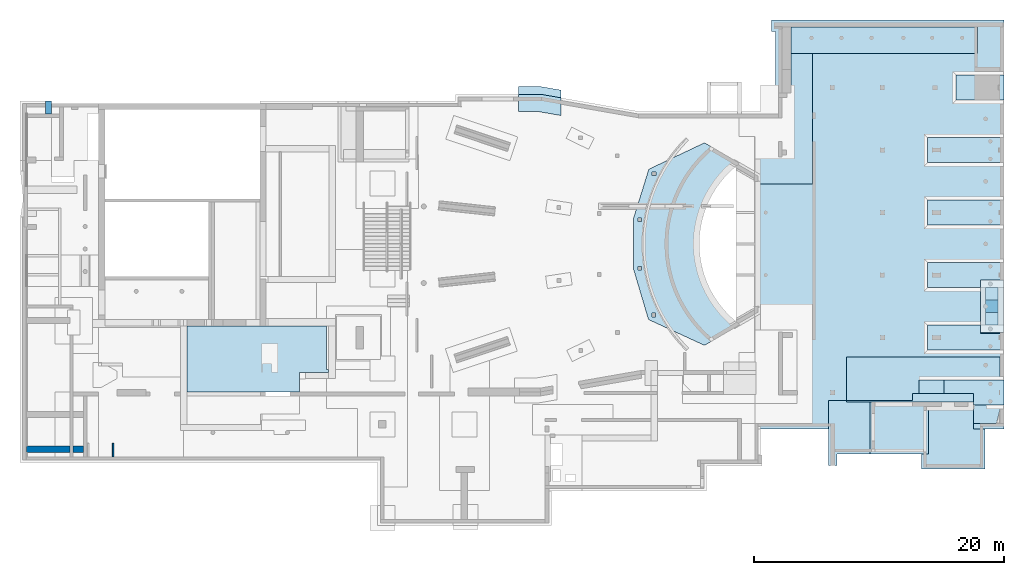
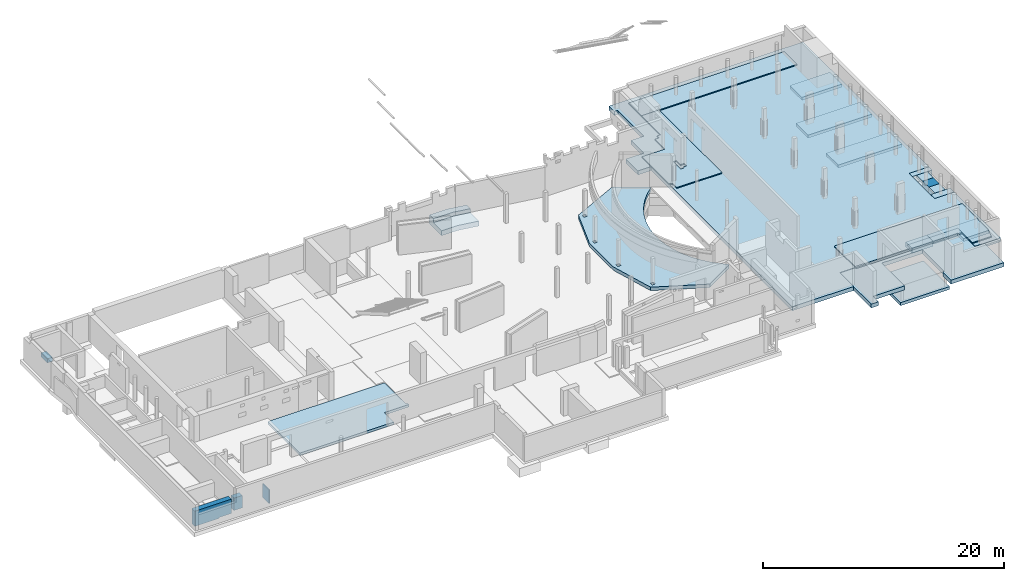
# One storey, part 30 of 42: 21 slabs, 2 walls, 6 openings.
"""IFC2X3 building model written with IfcOpenShell, lengths in millimetres."""

from ifc_helpers import new_model, entity, si_unit, converted_unit, derived_unit, direction, frame, frame_2d, origin, origin_2d_with_axis, place, context, subcontext, project, spatial, polyline, circle_curve, parameter, trimmed, segment, composite_curve, rectangle, outline, extrude, clip, bounded_halfspace, faceted_brep, material, layer, layer_set, layer_usage, type_object, element, save


model = new_model("IFC2X3")

# Units and contexts
model_context = context("Model", 3, precision=0.01, world=origin(), true_north=direction((6.12303176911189e-17, 1.0)))
body_context = subcontext(model_context, "Body", "Model", "MODEL_VIEW")
ifc_project = project(units=[si_unit("LENGTHUNIT", "METRE", prefix="MILLI"), si_unit("AREAUNIT", "SQUARE_METRE", prefix="MILLI"), si_unit("VOLUMEUNIT", "CUBIC_METRE"), converted_unit("PLANEANGLEUNIT", "DEGREE", entity("IfcRatioMeasure", 0.0174532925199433), si_unit("PLANEANGLEUNIT", "RADIAN"), dimensions=[0, 0, 0, 0, 0, 0, 0]), si_unit("MASSUNIT", "GRAM", prefix="KILO"), derived_unit("MASSDENSITYUNIT", [(si_unit("MASSUNIT", "GRAM", prefix="KILO"), 1), (si_unit("LENGTHUNIT", "METRE"), -3)]), derived_unit("MOMENTOFINERTIAUNIT", [(si_unit("LENGTHUNIT", "METRE"), 4)]), si_unit("TIMEUNIT", "SECOND"), si_unit("FREQUENCYUNIT", "HERTZ"), si_unit("THERMODYNAMICTEMPERATUREUNIT", "DEGREE_CELSIUS"), derived_unit("THERMALTRANSMITTANCEUNIT", [(si_unit("MASSUNIT", "GRAM", prefix="KILO"), 1), (si_unit("THERMODYNAMICTEMPERATUREUNIT", "KELVIN"), -1), (si_unit("TIMEUNIT", "SECOND"), -3)]), derived_unit("VOLUMETRICFLOWRATEUNIT", [(si_unit("LENGTHUNIT", "METRE"), 3), (si_unit("TIMEUNIT", "SECOND"), -1)]), si_unit("ELECTRICCURRENTUNIT", "AMPERE"), si_unit("ELECTRICVOLTAGEUNIT", "VOLT"), si_unit("POWERUNIT", "WATT"), si_unit("FORCEUNIT", "NEWTON", prefix="KILO"), si_unit("ILLUMINANCEUNIT", "LUX"), si_unit("LUMINOUSFLUXUNIT", "LUMEN"), si_unit("LUMINOUSINTENSITYUNIT", "CANDELA"), derived_unit("USERDEFINED", [(si_unit("MASSUNIT", "GRAM", prefix="KILO"), -1), (si_unit("LENGTHUNIT", "METRE"), -2), (si_unit("TIMEUNIT", "SECOND"), 3), (si_unit("LUMINOUSFLUXUNIT", "LUMEN"), 1)]), derived_unit("LINEARVELOCITYUNIT", [(si_unit("LENGTHUNIT", "METRE"), 1), (si_unit("TIMEUNIT", "SECOND"), -1)]), si_unit("PRESSUREUNIT", "PASCAL"), derived_unit("USERDEFINED", [(si_unit("LENGTHUNIT", "METRE"), -2), (si_unit("MASSUNIT", "GRAM", prefix="KILO"), 1), (si_unit("TIMEUNIT", "SECOND"), -2)]), derived_unit("LINEARFORCEUNIT", [(si_unit("MASSUNIT", "GRAM", prefix="KILO"), 1), (si_unit("LENGTHUNIT", "METRE"), 1), (si_unit("TIMEUNIT", "SECOND"), -2), (si_unit("LENGTHUNIT", "METRE"), -1)]), derived_unit("PLANARFORCEUNIT", [(si_unit("MASSUNIT", "GRAM", prefix="KILO"), 1), (si_unit("LENGTHUNIT", "METRE"), 1), (si_unit("TIMEUNIT", "SECOND"), -2), (si_unit("LENGTHUNIT", "METRE"), -2)])], contexts=[model_context])

# Site, building, storey
site_placement = place(None, origin())
site = spatial("IfcSite", under=ifc_project, at=site_placement, Name="Theater aan de Parade", CompositionType="ELEMENT")
building_placement = place(site_placement, origin())
building = spatial("IfcBuilding", under=site, at=building_placement, Name="Theater aan de Parade", CompositionType="ELEMENT")
storey_placement = place(building_placement, frame((0.0, 0.0, -3300.0)))
storey = spatial("IfcBuildingStorey", under=building, at=storey_placement, Name="-1 kelder", CompositionType="ELEMENT", Elevation=-3300.0)

# Slabs
ifc_material_1 = material(Name="00_PBT_MAT_beton t.p.g.")
ifc_layer_1 = layer(ifc_material_1, 400.0)
ifc_layer_set_1 = layer_set([ifc_layer_1], Name="Foundation Slab:13_PBT_FS_beton t.p.g._d=400_bestaand")
ifc_layer_usage_1 = layer_usage(ifc_layer_set_1, "AXIS3", "POSITIVE", 0.0)
slab_type_1 = type_object("IfcSlabType", Name="Foundation Slab:13_PBT_FS_beton t.p.g._d=400_bestaand", PredefinedType="BASESLAB", material=ifc_layer_set_1)
slab_1_placement = place(storey_placement, origin())
element("IfcSlab", 1, at=slab_1_placement, inside=storey, type_object=slab_type_1, material=ifc_layer_usage_1, Name="Foundation Slab:13_PBT_FS_beton t.p.g._d=400_bestaand", ObjectType="Foundation Slab:13_PBT_FS_beton t.p.g._d=400_bestaand", PredefinedType="BASESLAB", context=body_context, shape_type="SweptSolid", body=[
    extrude(rectangle(XDim=4200.0, YDim=1870.00000000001, at=frame_2d((0.0, 8.69704308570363e-12), x_axis=(1.0, 0.0))), frame((87725.0, 27470.0, -300.0), z_axis=(0.0, 0.0, -1.0), x_axis=(0.0, 1.0, 0.0)), (0.0, 0.0, 1.0), 400.0),
])
ifc_layer_usage_2 = layer_usage(ifc_layer_set_1, "AXIS3", "POSITIVE", 0.0)
slab_type_2 = type_object("IfcSlabType", Name="Foundation Slab:13_PBT_FS_beton t.p.g._d=400_bestaand", PredefinedType="BASESLAB", material=ifc_layer_set_1)
slab_2_placement = place(storey_placement, origin())
element("IfcSlab", 2, at=slab_2_placement, inside=storey, type_object=slab_type_2, material=ifc_layer_usage_2, Name="Foundation Slab:13_PBT_FS_beton t.p.g._d=400_bestaand", ObjectType="Foundation Slab:13_PBT_FS_beton t.p.g._d=400_bestaand", PredefinedType="BASESLAB", context=body_context, shape_type="SweptSolid", body=[
    extrude(outline(polyline([(8359.0908869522, -9998.45020097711), (10349.0908869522, -9998.45020097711), (10349.0908869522, -8268.29827850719), (12459.0908869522, -8268.29827850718), (12459.0908869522, -7068.2982785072), (16769.0908869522, -7068.2982785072), (16769.0908869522, -7388.2982785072), (17669.0908869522, -7388.29827850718), (17669.0908869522, 11191.7017214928), (-3190.90911304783, 11191.7017214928), (-3190.90911304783, 9301.70172149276), (-7390.90911304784, 9301.70172149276), (-7390.90911304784, 11191.7017214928), (-15045.9091130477, 11191.7017214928), (-15045.9091130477, 8749.56069105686), (-12190.9091130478, 8749.56069105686), (-12190.9091130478, 3881.70172149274), (-12740.9088695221, 3881.70172149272), (-12740.9088695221, -2854.72426202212), (-15045.9091130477, -2854.72426202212), (-15045.9091130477, -8738.29827850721), (8359.0908869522, -8738.29827850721), (8359.0908869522, -9998.45020097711)])), frame((77488.2982785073, 32700.9091130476, 660.0), z_axis=(0.0, 0.0, -1.0), x_axis=(0.0, 1.0, 0.0)), (0.0, 0.0, 1.0), 400.0),
])
ifc_layer_usage_3 = layer_usage(ifc_layer_set_1, "AXIS3", "POSITIVE", 0.0)
slab_type_3 = type_object("IfcSlabType", Name="Foundation Slab:13_PBT_FS_beton t.p.g._d=400_bestaand", PredefinedType="BASESLAB", material=ifc_layer_set_1)
slab_3_placement = place(storey_placement, frame((9990.0, 9960.0, -440.0)))
element("IfcSlab", 3, at=slab_3_placement, inside=storey, type_object=slab_type_3, material=ifc_layer_usage_3, Name="Foundation Slab:13_PBT_FS_beton t.p.g._d=400_bestaand:2", ObjectType="Foundation Slab:13_PBT_FS_beton t.p.g._d=400_bestaand", PredefinedType="BASESLAB", context=body_context, shape_type="SweptSolid", body=[
    extrude(rectangle(XDim=1030.00000002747, YDim=500.0, at=frame_2d((27105.8243425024, 16200.0), x_axis=(0.0, 1.0))), frame((29375.8243425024, 17225.0, 400.0), z_axis=(0.0, 0.0, -1.0), x_axis=(-1.0, 0.0, 0.0)), (0.0, 0.0, 1.0), 400.0),
])
ifc_layer_2 = layer(ifc_material_1, 700.0)
ifc_layer_set_2 = layer_set([ifc_layer_2], Name="Foundation Slab:13_PBT_FS_beton t.p.g._d=700_bestaand")
ifc_layer_usage_4 = layer_usage(ifc_layer_set_2, "AXIS3", "POSITIVE", 0.0)
slab_type_4 = type_object("IfcSlabType", Name="Foundation Slab:13_PBT_FS_beton t.p.g._d=700_bestaand", PredefinedType="BASESLAB", material=ifc_layer_set_2)
slab_4_placement = place(storey_placement, origin())
element("IfcSlab", 4, at=slab_4_placement, inside=storey, type_object=slab_type_4, material=ifc_layer_usage_4, Name="Foundation Slab:13_PBT_FS_beton t.p.g._d=700_bestaand", ObjectType="Foundation Slab:13_PBT_FS_beton t.p.g._d=700_bestaand", PredefinedType="BASESLAB", context=body_context, shape_type="SweptSolid", body=[
    extrude(rectangle(XDim=1999.99999999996, YDim=6109.99999999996, at=frame_2d((-1.51203494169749e-11, 0.0), x_axis=(1.0, 0.0))), frame((85625.0, 34970.0, -40.0), z_axis=(0.0, 0.0, 1.0), x_axis=(0.0, -1.0, 0.0)), (0.0, 0.0, 1.0), 300.0),
])
ifc_layer_usage_5 = layer_usage(ifc_layer_set_2, "AXIS3", "POSITIVE", 0.0)
slab_type_5 = type_object("IfcSlabType", Name="Foundation Slab:13_PBT_FS_beton t.p.g._d=700_bestaand", PredefinedType="BASESLAB", material=ifc_layer_set_2)
slab_5_placement = place(storey_placement, origin())
element("IfcSlab", 5, at=slab_5_placement, inside=storey, type_object=slab_type_5, material=ifc_layer_usage_5, Name="Foundation Slab:13_PBT_FS_beton t.p.g._d=700_bestaand", ObjectType="Foundation Slab:13_PBT_FS_beton t.p.g._d=700_bestaand", PredefinedType="BASESLAB", context=body_context, shape_type="SweptSolid", body=[
    extrude(rectangle(XDim=1999.99999999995, YDim=6109.99999999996, at=frame_2d((-1.29602995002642e-11, 0.0), x_axis=(1.0, 0.0))), frame((85625.0, 39965.0, -40.0), z_axis=(0.0, 0.0, 1.0), x_axis=(0.0, -1.0, 0.0)), (0.0, 0.0, 1.0), 300.0),
])
ifc_layer_usage_6 = layer_usage(ifc_layer_set_2, "AXIS3", "POSITIVE", 0.0)
slab_type_6 = type_object("IfcSlabType", Name="Foundation Slab:13_PBT_FS_beton t.p.g._d=700_bestaand", PredefinedType="BASESLAB", material=ifc_layer_set_2)
slab_6_placement = place(storey_placement, origin())
element("IfcSlab", 6, at=slab_6_placement, inside=storey, type_object=slab_type_6, material=ifc_layer_usage_6, Name="Foundation Slab:13_PBT_FS_beton t.p.g._d=700_bestaand", ObjectType="Foundation Slab:13_PBT_FS_beton t.p.g._d=700_bestaand", PredefinedType="BASESLAB", context=body_context, shape_type="SweptSolid", body=[
    extrude(rectangle(XDim=1999.99999999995, YDim=3820.00000000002, at=frame_2d((-1.29602995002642e-11, 8.75388650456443e-12), x_axis=(1.0, 0.0))), frame((86770.0, 44960.0, -40.0), z_axis=(0.0, 0.0, 1.0), x_axis=(0.0, -1.0, 0.0)), (0.0, 0.0, 1.0), 300.0),
])
slab_type_7 = type_object("IfcSlabType", Name="Foundation Slab:13_PBT_FS_beton t.p.g._d=700_bestaand", PredefinedType="BASESLAB")
slab_7_placement = place(storey_placement, origin())
element("IfcSlab", 7, at=slab_7_placement, inside=storey, type_object=slab_type_7, material=ifc_material_1, Name="Foundation Slab:13_PBT_FS_beton t.p.g._d=700_bestaand", ObjectType="Foundation Slab:13_PBT_FS_beton t.p.g._d=700_bestaand", PredefinedType="BASESLAB", context=body_context, shape_type="Brep", body=[
    faceted_brep([(82570.0, 30970.0, -40.0), (88680.0, 30970.0, -40.0), (88680.0, 29570.0, -40.0), (88680.0, 28970.0, -40.0), (86790.0, 28970.0, -40.0), (82570.0, 28970.0, -40.0), (86790.0, 28970.0, 660.0), (87040.0, 28970.0, 660.0), (87190.0, 28970.0, 660.0), (88190.0, 28970.0, 660.0), (88210.0, 28970.0, 660.0), (88680.0, 28970.0, 660.0), (88680.0, 29510.0, 660.0), (86790.0, 29510.0, 660.0), (82570.0, 30970.0, 260.0), (88660.0, 30970.0, 260.0), (88680.0, 30970.0, 260.0), (82570.0, 28970.0, 260.0), (86790.0, 28970.0, 260.0), (88680.0, 29510.0, 260.0), (86790.0, 29510.0, 260.0)], [[[0, 1, 2, 3, 4, 5]], [[6, 7, 8, 9, 10, 11, 12, 13]], [[1, 0, 14, 15, 16]], [[0, 5, 17, 14]], [[5, 4, 3, 11, 10, 9, 8, 7, 6, 18, 17]], [[3, 2, 1, 16, 19, 12, 11]], [[20, 19, 16, 15, 14, 17, 18]], [[13, 20, 18, 6]], [[19, 20, 13, 12]]]),
])
slab_type_8 = type_object("IfcSlabType", Name="Foundation Slab:13_PBT_FS_beton t.p.g._d=700_bestaand", PredefinedType="BASESLAB")
slab_8_placement = place(storey_placement, origin())
element("IfcSlab", 8, at=slab_8_placement, inside=storey, type_object=slab_type_8, material=ifc_material_1, Name="Foundation Slab:13_PBT_FS_beton t.p.g._d=700_bestaand", ObjectType="Foundation Slab:13_PBT_FS_beton t.p.g._d=700_bestaand", PredefinedType="BASESLAB", context=body_context, shape_type="Brep", body=[
    faceted_brep([(82570.0, 25970.0, -40.0), (86790.0, 25970.0, -40.0), (88680.0, 25970.0, -40.0), (88680.0, 25370.0, -40.0), (88680.0, 23970.0, -40.0), (82570.0, 23970.0, -40.0), (88680.0, 25970.0, 660.0), (88210.0, 25970.0, 660.0), (88190.0, 25970.0, 660.0), (87190.0, 25970.0, 660.0), (87040.0, 25970.0, 660.0), (86790.0, 25970.0, 660.0), (86790.0, 25310.0, 660.0), (88680.0, 25310.0, 660.0), (82570.0, 25970.0, 260.0), (86790.0, 25970.0, 260.0), (82570.0, 23970.0, 260.0), (88680.0, 23970.0, 260.0), (88660.0, 23970.0, 260.0), (88680.0, 25310.0, 260.0), (86790.0, 25310.0, 260.0)], [[[0, 1, 2, 3, 4, 5]], [[6, 7, 8, 9, 10, 11, 12, 13]], [[2, 1, 0, 14, 15, 11, 10, 9, 8, 7, 6]], [[0, 5, 16, 14]], [[5, 4, 17, 18, 16]], [[4, 3, 2, 6, 13, 19, 17]], [[19, 20, 15, 14, 16, 18, 17]], [[20, 12, 11, 15]], [[20, 19, 13, 12]]]),
])
ifc_layer_usage_7 = layer_usage(ifc_layer_set_2, "AXIS3", "POSITIVE", 0.0)
slab_type_9 = type_object("IfcSlabType", Name="Foundation Slab:13_PBT_FS_beton t.p.g._d=700_bestaand", PredefinedType="BASESLAB", material=ifc_layer_set_2)
slab_9_placement = place(storey_placement, origin())
element("IfcSlab", 9, at=slab_9_placement, inside=storey, type_object=slab_type_9, material=ifc_layer_usage_7, Name="Foundation Slab:13_PBT_FS_beton t.p.g._d=700_bestaand", ObjectType="Foundation Slab:13_PBT_FS_beton t.p.g._d=700_bestaand", PredefinedType="BASESLAB", context=body_context, shape_type="SweptSolid", body=[
    extrude(outline(polyline([(-1160.00476022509, -2078.49680157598), (-618.94231554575, -2078.49680157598), (-100.004760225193, -2078.49680157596), (-100.004760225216, -1237.65702030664), (-100.004760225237, -587.657020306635), (-100.004760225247, -135.637832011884), (-100.004760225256, 162.342979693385), (-100.004760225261, 289.362167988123), (178.99943824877, 289.362167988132), (839.995239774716, 289.362167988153), (839.995239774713, 400.577883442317), (839.995239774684, 1302.42851340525), (839.995239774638, 2731.50319842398), (-1160.00476022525, 2731.50319842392), (-1160.00476022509, -2078.49680157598)])), frame((85948.4968015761, 20409.9952397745, -40.0), z_axis=(0.0, 0.0, 1.0), x_axis=(0.0, -1.0, 0.0)), (0.0, 0.0, 1.0), 300.0),
])
ifc_layer_3 = layer(ifc_material_1, 900.0)
ifc_layer_set_3 = layer_set([ifc_layer_3], Name="Foundation Slab:13_PBT_FS_beton t.p.g._d=900 poer_bestaand")
ifc_layer_usage_8 = layer_usage(ifc_layer_set_3, "AXIS3", "POSITIVE", 0.0)
slab_type_10 = type_object("IfcSlabType", Name="Foundation Slab:13_PBT_FS_beton t.p.g._d=900 poer_bestaand", PredefinedType="BASESLAB", material=ifc_layer_set_3)
slab_10_placement = place(storey_placement, origin())
element("IfcSlab", 10, at=slab_10_placement, inside=storey, type_object=slab_type_10, material=ifc_layer_usage_8, Name="Foundation Slab:13_PBT_FS_beton t.p.g._d=900 poer_bestaand", ObjectType="Foundation Slab:13_PBT_FS_beton t.p.g._d=900 poer_bestaand", PredefinedType="BASESLAB", context=body_context, shape_type="SweptSolid", body=[
    extrude(rectangle(XDim=1059.99999999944, YDim=2000.00000000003, at=frame_2d((-115.535264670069, 8.54005468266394), x_axis=(1.0, 0.0))), frame((82861.4599453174, 20924.4647353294, -240.0), z_axis=(0.0, 0.0, 1.0), x_axis=(0.0, -1.0, 0.0)), (0.0, 0.0, 1.0), 500.0),
])
slab_type_11 = type_object("IfcSlabType", Name="Foundation Slab:13_PBT_FS_beton t.p.g._d=900 poer_bestaand", PredefinedType="BASESLAB")
slab_11_placement = place(storey_placement, origin())
element("IfcSlab", 11, at=slab_11_placement, inside=storey, type_object=slab_type_11, material=ifc_material_1, Name="Foundation Slab:13_PBT_FS_beton t.p.g._d=900 poer_bestaand", ObjectType="Foundation Slab:13_PBT_FS_beton t.p.g._d=900 poer_bestaand", PredefinedType="BASESLAB", context=body_context, shape_type="Brep", body=[
    faceted_brep([(51543.8141224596, 45060.0, -940.0), (53250.0, 44761.4174714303, -940.0), (53250.0, 42731.0234210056, -940.0), (51370.1338343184, 43060.0, -940.0), (49850.0, 43060.0, -940.0), (49850.0, 45060.0, -940.0), (53250.0, 44761.4174714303, -40.0), (51543.8141224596, 45060.0, -40.0), (49850.0, 45060.0, -40.0), (49850.0, 44410.0, -40.0), (51741.9915006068, 44410.0, -40.0), (53250.0, 44146.098512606, -40.0), (51741.9915006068, 44410.0, -440.0), (49850.0, 44410.0, -440.0), (53250.0, 44146.098512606, -440.0), (49850.0, 43060.0, -440.0), (51370.1338343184, 43060.0, -440.0), (53250.0, 42731.0234210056, -440.0)], [[[0, 1, 2, 3, 4, 5]], [[6, 7, 8, 9, 10, 11]], [[12, 10, 9, 13]], [[14, 12, 13, 15, 16, 17]], [[1, 0, 7, 6]], [[2, 1, 6, 11, 14, 17]], [[3, 2, 17, 16]], [[4, 3, 16, 15]], [[5, 4, 15, 13, 9, 8]], [[0, 5, 8, 7]], [[10, 12, 14, 11]]]),
])
ifc_material_2 = material(Name="00_PBT_MAT_beton t.p.g._C30/37")
slab_type_12 = type_object("IfcSlabType", Name="Floor:28_PBT_FL_beton t.p.g._d=250_C30/37_uitvulling n.t.b.", PredefinedType="FLOOR")
slab_12_placement = place(storey_placement, origin())
element("IfcSlab", 12, at=slab_12_placement, inside=storey, type_object=slab_type_12, material=ifc_material_2, Name="Floor:28_PBT_FL_beton t.p.g._d=250_C30/37_uitvulling n.t.b.", ObjectType="Floor:28_PBT_FL_beton t.p.g._d=250_C30/37_uitvulling n.t.b.", PredefinedType="FLOOR", context=body_context, shape_type="Brep", body=[
    faceted_brep([(32340.0, 20611.3674530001, -290.0), (23325.0, 20611.3674530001, -290.0), (23325.0, 25910.0, -290.0), (34680.0, 25910.0, -290.0), (34680.0, 22190.0, -290.0), (32340.0, 22190.0, -290.0), (23325.0, 20611.3674530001, -40.0), (29240.0, 20611.3674530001, -40.0), (32340.0, 20611.3674530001, -40.0), (32340.0, 22190.0, -40.0), (34680.0, 22190.0, -40.0), (34680.0, 22412.3674033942, -40.0), (34505.0, 22412.3674033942, -40.0), (34505.0, 25910.0, -40.0), (29175.0, 25910.0, -40.0), (28075.0, 25910.0, -40.0), (23325.0, 25910.0, -40.0), (34505.0, 25910.0, -240.0), (34680.0, 25910.0, -240.0), (34680.0, 22412.3674033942, -240.0), (34505.0, 22412.3674033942, -240.0)], [[[0, 1, 2, 3, 4, 5]], [[6, 7, 8, 9, 10, 11, 12, 13, 14, 15, 16]], [[1, 0, 8, 7, 6]], [[2, 1, 6, 16]], [[3, 2, 16, 15, 14, 13, 17, 18]], [[4, 3, 18, 19, 11, 10]], [[5, 4, 10, 9]], [[0, 5, 9, 8]], [[17, 20, 19, 18]], [[20, 17, 13, 12]], [[19, 20, 12, 11]]]),
])
ifc_layer_4 = layer(ifc_material_2, 300.0)
ifc_layer_set_4 = layer_set([ifc_layer_4], Name="Foundation Slab:13_PBT_FS_beton t.p.g._d=300_C30/37")
ifc_layer_usage_9 = layer_usage(ifc_layer_set_4, "AXIS3", "POSITIVE", 0.0)
slab_type_13 = type_object("IfcSlabType", Name="Foundation Slab:13_PBT_FS_beton t.p.g._d=300_C30/37", PredefinedType="BASESLAB", material=ifc_layer_set_4)
slab_13_placement = place(storey_placement, origin())
element("IfcSlab", 13, at=slab_13_placement, inside=storey, type_object=slab_type_13, material=ifc_layer_usage_9, Name="Foundation Slab:13_PBT_FS_beton t.p.g._d=300_C30/37", ObjectType="Foundation Slab:13_PBT_FS_beton t.p.g._d=300_C30/37", PredefinedType="BASESLAB", context=body_context, shape_type="SweptSolid", body=[
    extrude(rectangle(XDim=4300.00390453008, YDim=4699.90838921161, at=frame_2d((2.04636307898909e-12, 0.0), x_axis=(1.0, 0.0))), frame((80300.0542271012, 17809.9980477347, -940.0), z_axis=(0.0, 0.0, -1.0), x_axis=(0.0, 1.0, 0.0)), (0.0, 0.0, 1.0), 300.0),
])
ifc_layer_5 = layer(ifc_material_2, 400.0)
ifc_layer_set_5 = layer_set([ifc_layer_5], Name="Foundation Slab:13_PBT_FS_beton t.p.g._d=400_C30/37")
ifc_layer_usage_10 = layer_usage(ifc_layer_set_5, "AXIS3", "POSITIVE", 0.0)
slab_type_14 = type_object("IfcSlabType", Name="Foundation Slab:13_PBT_FS_beton t.p.g._d=400_C30/37", PredefinedType="BASESLAB", material=ifc_layer_set_5)
slab_14_placement = place(storey_placement, origin())
element("IfcSlab", 14, at=slab_14_placement, inside=storey, type_object=slab_type_14, material=ifc_layer_usage_10, Name="Foundation Slab:13_PBT_FS_beton t.p.g._d=400_C30/37", ObjectType="Foundation Slab:13_PBT_FS_beton t.p.g._d=400_C30/37", PredefinedType="BASESLAB", context=body_context, shape_type="SweptSolid", body=[
    extrude(outline(polyline([(-2523.12457281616, -6296.54883951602), (2676.87567071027, -6296.54883951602), (2676.87567071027, 439.87714399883), (3226.87542718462, 439.877143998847), (3226.87542718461, 5307.73611356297), (371.875427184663, 5307.73611356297), (371.875427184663, 6235.73611356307), (-2833.12457281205, 6235.73611356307), (-2833.12457281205, 1169.88556570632), (-1473.12457281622, 1169.88556570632), (-1473.12457281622, 1319.88556570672), (2176.87567071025, 1319.88556570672), (2176.87567071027, -2580.02282350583), (-1623.12847734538, -2580.02282350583), (-1623.12847734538, -5596.54883951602), (-2523.12457281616, -5596.54883951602), (-2523.12457281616, -6296.54883951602)])), frame((80930.1228560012, 17283.1245728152, 630.0), z_axis=(0.0, 0.0, -1.0), x_axis=(0.0, 1.0, 0.0)), (0.0, 0.0, 1.0), 400.0),
])
ifc_layer_6 = layer(ifc_material_2, 960.0)
ifc_layer_set_6 = layer_set([ifc_layer_6], Name="Foundation Slab:13_PBT_FS_beton t.p.g._d=960_C30/37")
ifc_layer_usage_11 = layer_usage(ifc_layer_set_6, "AXIS3", "POSITIVE", 0.0)
slab_type_15 = type_object("IfcSlabType", Name="Foundation Slab:13_PBT_FS_beton t.p.g._d=960_C30/37", PredefinedType="BASESLAB", material=ifc_layer_set_6)
slab_15_placement = place(storey_placement, origin())
element("IfcSlab", 15, at=slab_15_placement, inside=storey, type_object=slab_type_15, material=ifc_layer_usage_11, Name="Foundation Slab:13_PBT_FS_beton t.p.g._d=960_C30/37", ObjectType="Foundation Slab:13_PBT_FS_beton t.p.g._d=960_C30/37", PredefinedType="BASESLAB", context=body_context, shape_type="SweptSolid", body=[
    extrude(rectangle(XDim=1000.00000000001, YDim=1020.0000000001, at=frame_2d((0.0, 8.64019966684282e-12), x_axis=(1.0, 0.0))), frame((87700.0, 27470.0, 660.0), z_axis=(0.0, 0.0, -1.0), x_axis=(0.0, 1.0, 0.0)), (0.0, 0.0, 1.0), 960.0),
])
ifc_layer_7 = layer(ifc_material_2, 200.0)
ifc_layer_set_7 = layer_set([ifc_layer_7], Name="Floor:28_PBT_FL_beton t.p.g._d=200_C30/37")
ifc_layer_usage_12 = layer_usage(ifc_layer_set_7, "AXIS3", "POSITIVE", 0.0)
slab_type_16 = type_object("IfcSlabType", Name="Floor:28_PBT_FL_beton t.p.g._d=200_C30/37", PredefinedType="FLOOR", material=ifc_layer_set_7)
slab_16_placement = place(storey_placement, origin())
element("IfcSlab", 16, at=slab_16_placement, inside=storey, type_object=slab_type_16, material=ifc_layer_usage_12, Name="Floor:28_PBT_FL_beton t.p.g._d=200_C30/37", ObjectType="Floor:28_PBT_FL_beton t.p.g._d=200_C30/37", PredefinedType="FLOOR", context=body_context, shape_type="SweptSolid", body=[
    extrude(rectangle(XDim=999.999999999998, YDim=1020.0000000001, at=frame_2d((0.0, 8.64019966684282e-12), x_axis=(1.0, 0.0))), frame((87700.0, 26470.0, 460.0), z_axis=(0.0, 0.0, 1.0), x_axis=(0.0, 1.0, 0.0)), (0.0, 0.0, 1.0), 200.0),
    extrude(rectangle(XDim=999.999999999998, YDim=1020.0000000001, at=frame_2d((0.0, 8.64019966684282e-12), x_axis=(1.0, 0.0))), frame((87700.0, 28470.0, 460.0), z_axis=(0.0, 0.0, 1.0), x_axis=(0.0, -1.0, 0.0)), (0.0, 0.0, 1.0), 200.0),
])
ifc_layer_8 = layer(ifc_material_2, 100.0)
ifc_layer_set_8 = layer_set([ifc_layer_8], Name="Floor:28_PBT_FL_druklaag_d=100_C30/37")
ifc_layer_usage_13 = layer_usage(ifc_layer_set_8, "AXIS3", "POSITIVE", 0.0)
slab_type_17 = type_object("IfcSlabType", Name="Floor:28_PBT_FL_druklaag_d=100_C30/37", PredefinedType="FLOOR", material=ifc_layer_set_8)
slab_17_placement = place(storey_placement, origin())
element("IfcSlab", 17, at=slab_17_placement, inside=storey, type_object=slab_type_17, material=ifc_layer_usage_13, Name="Floor:28_PBT_FL_druklaag_d=100_C30/37", ObjectType="Floor:28_PBT_FL_druklaag_d=100_C30/37", PredefinedType="FLOOR", context=body_context, shape_type="SweptSolid", body=[
    extrude(rectangle(XDim=2123.00000000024, YDim=14898.1683175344, at=frame_2d((-4.32009983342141e-12, 8.64019966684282e-12), x_axis=(1.0, 0.0))), frame((79106.0841587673, 48758.4999999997, 760.0), z_axis=(0.0, 0.0, -1.0), x_axis=(0.0, 1.0, 0.0)), (0.0, 0.0, 1.0), 100.0),
])

# Slab, opening
ifc_layer_usage_14 = layer_usage(ifc_layer_set_8, "AXIS3", "POSITIVE", 0.0)
slab_type_18 = type_object("IfcSlabType", Name="Floor:28_PBT_FL_druklaag_d=100_C30/37", PredefinedType="FLOOR", material=ifc_layer_set_8)
slab_18_placement = place(storey_placement, frame((68720.0, 37250.0, 660.0)))
slab_18 = element("IfcSlab", 18, at=slab_18_placement, inside=storey, type_object=slab_type_18, material=ifc_layer_usage_14, Name="Floor:28_PBT_FL_druklaag_d=100_C30/37", ObjectType="Floor:28_PBT_FL_druklaag_d=100_C30/37", PredefinedType="FLOOR", context=body_context, shape_type="SweptSolid", body=[
    extrude(outline(polyline([(-2315.0, 5223.50000000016), (-2315.0, -5223.50000000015), (2015.0, -5223.50000000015), (2015.0, -4590.78056163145), (2315.0, -4417.60667669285), (2315.0, 76.5000000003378), (95.0, 76.5000000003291), (95.0, 1711.50000000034), (-302.0, 1711.50000000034), (-302.0, 2061.50180610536), (-622.0, 2061.50180610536), (-622.0, 5223.50000000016), (-2315.0, 5223.50000000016)])), frame((2315.0, 5223.50000000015, 100.0), z_axis=(0.0, 0.0, -1.0), x_axis=(-1.0, 0.0, 0.0)), (0.0, 0.0, 1.0), 100.0),
])
opening_1_placement = place(slab_18_placement, frame((2231.25021192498, 2642.71058157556, 100.0)))
element("IfcOpeningElement", 19, at=opening_1_placement, cuts=slab_18, Name="Floor:28_PBT_FL_druklaag_d=100_C30/37:2", ObjectType="Opening", context=body_context, shape_type="SweptSolid", body=[
    extrude(outline(polyline([(-311.250211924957, 748.131744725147), (-311.250211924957, -482.71058157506), (-11.2502119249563, -482.71058157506), (-11.2502119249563, -332.71058157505), (333.750635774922, -332.71058157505), (333.750635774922, 67.2894184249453), (-11.2502119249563, 67.2894184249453), (-11.2502119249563, 748.131744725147), (-311.250211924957, 748.131744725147)])), origin(), (0.0, 0.0, -1.0), 100.0),
])

# Slabs
ifc_layer_usage_15 = layer_usage(ifc_layer_set_8, "AXIS3", "POSITIVE", 0.0)
slab_type_19 = type_object("IfcSlabType", Name="Floor:28_PBT_FL_druklaag_d=100_C30/37", PredefinedType="FLOOR", material=ifc_layer_set_8)
slab_19_placement = place(storey_placement, origin())
element("IfcSlab", 20, at=slab_19_placement, inside=storey, type_object=slab_type_19, material=ifc_layer_usage_15, Name="Floor:28_PBT_FL_druklaag_d=100_C30/37", ObjectType="Floor:28_PBT_FL_druklaag_d=100_C30/37", PredefinedType="FLOOR", context=body_context, shape_type="SweptSolid", body=[
    extrude(outline(polyline([(-460.243126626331, -8939.35283722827), (2989.75662984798, -8939.35283722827), (2989.75662984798, 3320.5471302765), (324.756629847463, 3320.5471302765), (324.756629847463, 3250.5471302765), (-25.2433701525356, 3250.5471302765), (-25.2433701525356, 3320.5471302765), (-1207.08004522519, 3320.5471302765), (-2315.24337015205, 3037.51643256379), (-2315.243370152, 1198.40609984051), (89.7566298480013, 1198.40609984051), (89.7566298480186, -3669.45286972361), (-460.243126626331, -3669.45286972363), (-460.243126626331, -8939.35283722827)])), frame((85039.4528697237, 20420.2433701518, 760.0), z_axis=(0.0, 0.0, -1.0), x_axis=(0.0, 1.0, 0.0)), (0.0, 0.0, 1.0), 100.0),
])
ifc_layer_9 = layer(ifc_material_2, 130.0)
ifc_layer_set_9 = layer_set([ifc_layer_9], Name="Floor:28_PBT_FL_druklaag_d=130_C30/37")
ifc_layer_usage_16 = layer_usage(ifc_layer_set_9, "AXIS3", "POSITIVE", 0.0)
slab_type_20 = type_object("IfcSlabType", Name="Floor:28_PBT_FL_druklaag_d=130_C30/37", PredefinedType="FLOOR", material=ifc_layer_set_9)
slab_20_placement = place(storey_placement, origin())
element("IfcSlab", 21, at=slab_20_placement, inside=storey, type_object=slab_type_20, material=ifc_layer_usage_16, Name="Floor:28_PBT_FL_druklaag_d=130_C30/37", ObjectType="Floor:28_PBT_FL_druklaag_d=130_C30/37", PredefinedType="FLOOR", context=body_context, shape_type="SweptSolid", body=[
    extrude(outline(polyline([(-283.333252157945, -5135.88630152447), (-133.333252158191, -5135.88630152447), (-133.333252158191, 134.013665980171), (416.666504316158, 134.013665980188), (416.666504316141, 5001.87263554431), (-283.333252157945, 5001.87263554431), (-283.333252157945, -5135.88630152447)])), frame((81235.9863340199, 20093.3334956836, 760.0), z_axis=(0.0, 0.0, -1.0), x_axis=(0.0, 1.0, 0.0)), (0.0, 0.0, 1.0), 130.0),
])

# Slab, openings
ifc_layer_10 = layer(ifc_material_2, 350.0)
ifc_layer_set_10 = layer_set([ifc_layer_10], Name="Floor:28_PBT_FL_druklaag_d=350_C30/37")
ifc_layer_usage_17 = layer_usage(ifc_layer_set_10, "AXIS3", "POSITIVE", 0.0)
slab_type_21 = type_object("IfcSlabType", Name="Floor:28_PBT_FL_druklaag_d=350_C30/37", PredefinedType="FLOOR", material=ifc_layer_set_10)
slab_21_placement = place(storey_placement, frame((59045.0, 24351.6442996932, -40.0)))
slab_21 = element("IfcSlab", 22, at=slab_21_placement, inside=storey, type_object=slab_type_21, material=ifc_layer_usage_17, Name="Floor:28_PBT_FL_druklaag_d=350_C30/37", ObjectType="Floor:28_PBT_FL_druklaag_d=350_C30/37", PredefinedType="FLOOR", context=body_context, shape_type="SweptSolid", body=[
    extrude(outline(composite_curve([segment(trimmed(circle_curve(frame_2d((-9064.29601909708, 15.4466493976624), x_axis=(-1.0, 0.0)), 8028.67674840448), [parameter(127.569446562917)], [parameter(232.157381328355)], True, "PARAMETER"), False, "CONTINUOUS"), segment(polyline([(-4169.03049945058, -6348.20213275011), (-4237.34494488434, -6464.99924629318)]), True, "CONTINUOUS"), segment(polyline([(-4237.34494488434, -6464.99924629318), (-1444.79765851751, -8098.35570030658)]), True, "CONTINUOUS"), segment(polyline([(-1444.79765851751, -8098.35570030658), (3032.30829698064, -6034.26803755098)]), True, "CONTINUOUS"), segment(polyline([(3032.30829698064, -6034.26803755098), (4237.34494488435, -1971.88322993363)]), True, "CONTINUOUS"), segment(polyline([(4237.34494488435, -1971.88322993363), (4237.34494488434, 2029.04790326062)]), True, "CONTINUOUS"), segment(polyline([(4237.34494488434, 2029.04790326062), (3004.59189508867, 5987.85398544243)]), True, "CONTINUOUS"), segment(polyline([(3004.59189508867, 5987.85398544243), (-1444.79765851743, 8098.35570030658)]), True, "CONTINUOUS"), segment(polyline([(-1444.79765851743, 8098.35570030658), (-4211.51945212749, 6480.10453581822)]), True, "CONTINUOUS"), segment(polyline([(-4211.51945212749, 6480.10453581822), (-4138.74594877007, 6355.68377706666)]), True, "CONTINUOUS")], self_intersect=False)), frame((4237.34494488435, 8098.35570030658, 350.0), z_axis=(0.0, 0.0, -1.0), x_axis=(-1.0, 0.0, 0.0)), (0.0, 0.0, 1.0), 350.0),
])
opening_2_placement = place(slab_21_placement, frame((510.0, 6165.35570030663, 350.0)))
element("IfcOpeningElement", 23, at=opening_2_placement, cuts=slab_21, Name="Floor:28_PBT_FL_druklaag_d=350_C30/37:2", ObjectType="Opening", context=body_context, shape_type="SweptSolid", body=[
    extrude(rectangle(XDim=300.000000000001, YDim=300.000000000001, at=origin_2d_with_axis()), frame((0.0, 0.0, 0.0), z_axis=(0.0, 0.0, -1.0), x_axis=(-1.0, 0.0, 0.0)), (0.0, 0.0, 1.0), 350.0),
])
opening_3_placement = place(slab_21_placement, frame((500.0, 10051.3557003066, 350.0)))
element("IfcOpeningElement", 24, at=opening_3_placement, cuts=slab_21, Name="Floor:28_PBT_FL_druklaag_d=350_C30/37:3", ObjectType="Opening", context=body_context, shape_type="SweptSolid", body=[
    extrude(rectangle(XDim=300.000000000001, YDim=300.000000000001, at=origin_2d_with_axis()), frame((0.0, 0.0, 0.0), z_axis=(0.0, 0.0, -1.0), x_axis=(-1.0, 0.0, 0.0)), (0.0, 0.0, 1.0), 350.0),
])
opening_4_placement = place(slab_21_placement, frame((1645.0, 13728.3557003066, 350.0)))
element("IfcOpeningElement", 25, at=opening_4_placement, cuts=slab_21, Name="Floor:28_PBT_FL_druklaag_d=350_C30/37:4", ObjectType="Opening", context=body_context, shape_type="SweptSolid", body=[
    extrude(rectangle(XDim=300.000000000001, YDim=300.000000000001, at=origin_2d_with_axis()), frame((0.0, 0.0, 0.0), z_axis=(0.0, 0.0, -1.0), x_axis=(-1.0, 0.0, 0.0)), (0.0, 0.0, 1.0), 350.0),
])
opening_5_placement = place(slab_21_placement, frame((1620.0, 2423.35570030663, 350.0)))
element("IfcOpeningElement", 26, at=opening_5_placement, cuts=slab_21, Name="Floor:28_PBT_FL_druklaag_d=350_C30/37:5", ObjectType="Opening", context=body_context, shape_type="SweptSolid", body=[
    extrude(rectangle(XDim=300.000000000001, YDim=300.000000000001, at=origin_2d_with_axis()), frame((0.0, 0.0, 0.0), z_axis=(0.0, 0.0, -1.0), x_axis=(-1.0, 0.0, 0.0)), (0.0, 0.0, 1.0), 350.0),
])

# Wall, opening
ifc_layer_11 = layer(ifc_material_2, 500.0)
ifc_layer_set_11 = layer_set([ifc_layer_11], Name="Basic Wall:28_PBT_WA_beton t.p.g._d=500_C30/37")
ifc_layer_usage_18 = layer_usage(ifc_layer_set_11, "AXIS2", "NEGATIVE", 250.0)
wall_type_1 = type_object("IfcWallType", Name="Basic Wall:28_PBT_WA_beton t.p.g._d=500_C30/37", PredefinedType="STANDARD", material=ifc_layer_set_11)
wall_1_placement = place(storey_placement, frame((10490.0, 16040.0, -40.0)))
wall_1 = element("IfcWallStandardCase", 27, at=wall_1_placement, inside=storey, type_object=wall_type_1, material=ifc_layer_usage_18, Name="Basic Wall:28_PBT_WA_beton t.p.g._d=500_C30/37", ObjectType="Basic Wall:28_PBT_WA_beton t.p.g._d=500_C30/37", context=body_context, shape_type="Clipping", body=[
    clip(clip(clip(extrude(rectangle(XDim=4563.85700251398, YDim=499.999999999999, at=frame_2d((2281.92850125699, -5.6843418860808e-14), x_axis=(-1.0, 0.0))), origin(), (0.0, 0.0, 1.0), 1540.00000000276), bounded_halfspace(frame((2304.11331215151, -250.0, 100.0)), True, frame((2304.11331215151, -250.0, 100.0)), polyline([(0.0, 0.0), (1200.0, 0.0), (1200.0, 500.0), (0.0, 500.0), (0.0, 0.0)]))), bounded_halfspace(frame((2304.1133121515, 250.0, 100.0), z_axis=(-1.0, 0.0, 0.0), x_axis=(0.0, 0.0, 1.0)), True, frame((2304.1133121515, 250.0, 100.0), z_axis=(-1.0, 0.0, 0.0), x_axis=(0.0, 0.0, 1.0)), polyline([(0.0, 0.0), (-100.0, 0.0), (-100.0, -500.0), (0.0, -500.0), (0.0, 0.0)]))), bounded_halfspace(frame((4563.85700251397, -250.0, 300.0)), True, frame((4563.85700251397, -250.0, 300.0)), polyline([(0.0, 0.0), (0.0, 500.0), (-809.743690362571, 500.0), (-809.743690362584, 0.0), (0.0, 0.0)]))),
])
opening_6_placement = place(storey_placement, frame((10490.0, 16040.0, -40.0)))
element("IfcOpeningElement", 28, at=opening_6_placement, cuts=wall_1, Name="Basic Wall:28_PBT_WA_beton t.p.g._d=500_C30/37:1", ObjectType="Opening", context=body_context, shape_type="SweptSolid", body=[
    extrude(rectangle(XDim=1440.00000000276, YDim=499.999999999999, at=frame_2d((0.0, -173.333333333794), x_axis=(0.0, 1.0))), frame((3504.11331215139, 0.0, 646.666666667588), z_axis=(1.0, 0.0, 0.0), x_axis=(0.0, -1.0, 0.0)), (0.0, 0.0, 1.0), 249.999999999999),
])

# Wall
ifc_material_3 = material(Name="00_PBT_MAT_kalkzandsteen_CS20")
ifc_layer_12 = layer(ifc_material_3, 120.0)
ifc_layer_set_12 = layer_set([ifc_layer_12], Name="Basic Wall:28_PBT_WA_kzs_d=120_CS20")
ifc_layer_usage_19 = layer_usage(ifc_layer_set_12, "AXIS2", "NEGATIVE", 60.0)
wall_type_2 = type_object("IfcWallType", Name="Basic Wall:28_PBT_WA_kzs_d=120_CS20", PredefinedType="STANDARD", material=ifc_layer_set_12)
wall_2_placement = place(storey_placement, frame((17438.8570139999, 16513.58968964, 60.0), z_axis=(0.0, 0.0, 1.0), x_axis=(0.0, -1.0, 0.0)))
element("IfcWallStandardCase", 29, at=wall_2_placement, inside=storey, type_object=wall_type_2, material=ifc_layer_usage_19, Name="Basic Wall:28_PBT_WA_kzs_d=120_CS20", ObjectType="Basic Wall:28_PBT_WA_kzs_d=120_CS20", context=body_context, shape_type="SweptSolid", body=[
    extrude(rectangle(XDim=1073.58968964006, YDim=119.999999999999, at=frame_2d((536.794844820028, 0.0), x_axis=(-1.0, 0.0))), origin(), (0.0, 0.0, 1.0), 1377.647058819),
])

save(model, "model.ifc")
